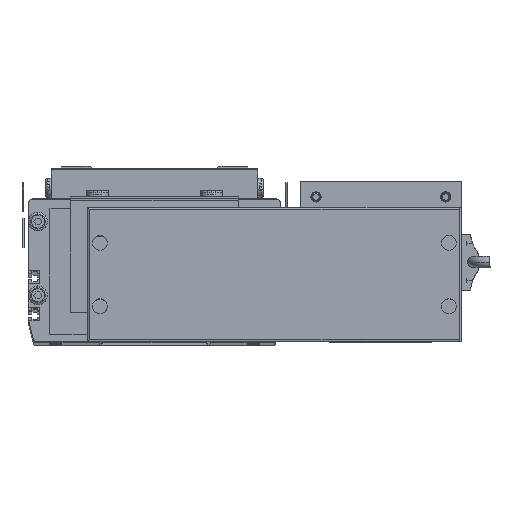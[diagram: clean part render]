
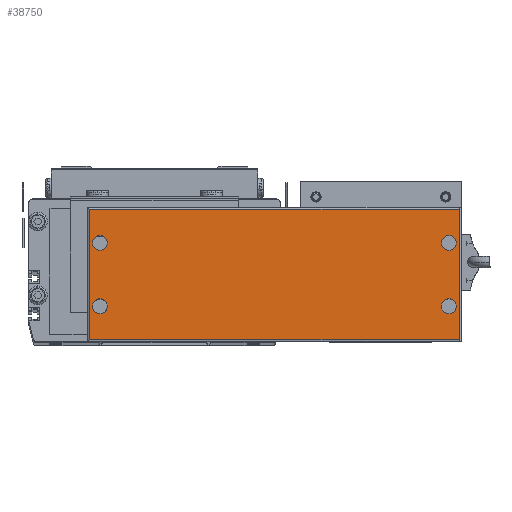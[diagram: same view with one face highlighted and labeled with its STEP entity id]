
A CAD part, top view. The second image highlights one B-rep face of the part: STEP entity #38750.
In plain terms, the highlighted planar face has unit normal (0, 0, 1).
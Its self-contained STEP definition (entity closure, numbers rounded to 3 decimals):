
#10413 = EDGE_CURVE ( 'NONE', #10707, #10705, #72257, .T. ) ;
#10446 = VERTEX_POINT ( 'NONE', #72368 ) ;
#10503 = VERTEX_POINT ( 'NONE', #72694 ) ;
#10506 = VERTEX_POINT ( 'NONE', #72470 ) ;
#10573 = EDGE_CURVE ( 'NONE', #10622, #10506, #72762, .T. ) ;
#10610 = EDGE_CURVE ( 'NONE', #10446, #10503, #73089, .T. ) ;
#10622 = VERTEX_POINT ( 'NONE', #73035 ) ;
#10664 = EDGE_CURVE ( 'NONE', #10687, #10684, #73027, .T. ) ;
#10684 = VERTEX_POINT ( 'NONE', #72866 ) ;
#10687 = VERTEX_POINT ( 'NONE', #72876 ) ;
#10705 = VERTEX_POINT ( 'NONE', #73012 ) ;
#10707 = VERTEX_POINT ( 'NONE', #72968 ) ;
#38286 = ORIENTED_EDGE ( 'NONE', *, *, #38531, .T. ) ;
#38287 = EDGE_CURVE ( 'NONE', #38530, #38509, #88732, .T. ) ;
#38361 = ORIENTED_EDGE ( 'NONE', *, *, #38713, .T. ) ;
#38365 = ORIENTED_EDGE ( 'NONE', *, *, #10573, .F. ) ;
#38472 = ORIENTED_EDGE ( 'NONE', *, *, #10413, .F. ) ;
#38500 = EDGE_LOOP ( 'NONE', ( #38682, #38365 ) ) ;
#38502 = EDGE_CURVE ( 'NONE', #10705, #10707, #89209, .T. ) ;
#38507 = EDGE_CURVE ( 'NONE', #38541, #38779, #89240, .T. ) ;
#38509 = VERTEX_POINT ( 'NONE', #89169 ) ;
#38514 = ORIENTED_EDGE ( 'NONE', *, *, #38507, .T. ) ;
#38528 = ORIENTED_EDGE ( 'NONE', *, *, #38680, .F. ) ;
#38530 = VERTEX_POINT ( 'NONE', #89152 ) ;
#38531 = EDGE_CURVE ( 'NONE', #38779, #38530, #89150, .T. ) ;
#38533 = EDGE_LOOP ( 'NONE', ( #38361, #38514, #38286, #38665 ) ) ;
#38541 = VERTEX_POINT ( 'NONE', #89291 ) ;
#38628 = ORIENTED_EDGE ( 'NONE', *, *, #38629, .F. ) ;
#38629 = EDGE_CURVE ( 'NONE', #10503, #10446, #95733, .T. ) ;
#38665 = ORIENTED_EDGE ( 'NONE', *, *, #38287, .T. ) ;
#38680 = EDGE_CURVE ( 'NONE', #10684, #10687, #89698, .T. ) ;
#38682 = ORIENTED_EDGE ( 'NONE', *, *, #38768, .F. ) ;
#38689 = ORIENTED_EDGE ( 'NONE', *, *, #38502, .F. ) ;
#38691 = ORIENTED_EDGE ( 'NONE', *, *, #10610, .F. ) ;
#38712 = ORIENTED_EDGE ( 'NONE', *, *, #10664, .F. ) ;
#38713 = EDGE_CURVE ( 'NONE', #38509, #38541, #89727, .T. ) ;
#38750 = ADVANCED_FACE ( 'NONE', ( #90131, #90129, #90049, #90124, #90132 ), #90130, .T. ) ;
#38756 = EDGE_LOOP ( 'NONE', ( #38689, #38472 ) ) ;
#38759 = EDGE_LOOP ( 'NONE', ( #38528, #38712 ) ) ;
#38768 = EDGE_CURVE ( 'NONE', #10506, #10622, #90197, .T. ) ;
#38776 = EDGE_LOOP ( 'NONE', ( #38628, #38691 ) ) ;
#38779 = VERTEX_POINT ( 'NONE', #90202 ) ;
#72247 = DIRECTION ( 'NONE',  ( 1., 0., 0. ) ) ;
#72248 = DIRECTION ( 'NONE',  ( 0., 0., 1. ) ) ;
#72257 = CIRCLE ( 'NONE', #72430, 4. ) ;
#72261 = CARTESIAN_POINT ( 'NONE',  ( -29.25, 19., 44. ) ) ;
#72368 = CARTESIAN_POINT ( 'NONE',  ( -33.25, 53., 44. ) ) ;
#72430 = AXIS2_PLACEMENT_3D ( 'NONE', #72261, #72248, #72247 ) ;
#72470 = CARTESIAN_POINT ( 'NONE',  ( 161.75, 19., 44. ) ) ;
#72694 = CARTESIAN_POINT ( 'NONE',  ( -25.25, 53., 44. ) ) ;
#72748 = CARTESIAN_POINT ( 'NONE',  ( -29.25, 53., 44. ) ) ;
#72762 = CIRCLE ( 'NONE', #72788, 4. ) ;
#72771 = AXIS2_PLACEMENT_3D ( 'NONE', #72748, #73042, #72988 ) ;
#72788 = AXIS2_PLACEMENT_3D ( 'NONE', #72822, #72901, #72899 ) ;
#72822 = CARTESIAN_POINT ( 'NONE',  ( 157.75, 19., 44. ) ) ;
#72866 = CARTESIAN_POINT ( 'NONE',  ( 161.75, 53., 44. ) ) ;
#72876 = CARTESIAN_POINT ( 'NONE',  ( 153.75, 53., 44. ) ) ;
#72899 = DIRECTION ( 'NONE',  ( 1., 0., 0. ) ) ;
#72901 = DIRECTION ( 'NONE',  ( 0., 0., 1. ) ) ;
#72906 = CARTESIAN_POINT ( 'NONE',  ( 157.75, 53., 44. ) ) ;
#72941 = AXIS2_PLACEMENT_3D ( 'NONE', #72906, #73022, #73020 ) ;
#72968 = CARTESIAN_POINT ( 'NONE',  ( -33.25, 19., 44. ) ) ;
#72988 = DIRECTION ( 'NONE',  ( 1., 0., 0. ) ) ;
#73012 = CARTESIAN_POINT ( 'NONE',  ( -25.25, 19., 44. ) ) ;
#73020 = DIRECTION ( 'NONE',  ( 1., 0., 0. ) ) ;
#73022 = DIRECTION ( 'NONE',  ( 0., 0., 1. ) ) ;
#73027 = CIRCLE ( 'NONE', #72941, 4. ) ;
#73035 = CARTESIAN_POINT ( 'NONE',  ( 153.75, 19., 44. ) ) ;
#73042 = DIRECTION ( 'NONE',  ( 0., 0., 1. ) ) ;
#73089 = CIRCLE ( 'NONE', #72771, 4. ) ;
#88657 = DIRECTION ( 'NONE',  ( 0., -1., 0. ) ) ;
#88658 = VECTOR ( 'NONE', #88657, 1000. ) ;
#88666 = CARTESIAN_POINT ( 'NONE',  ( -34.75, 0., 44. ) ) ;
#88732 = LINE ( 'NONE', #88666, #88658 ) ;
#89149 = CARTESIAN_POINT ( 'NONE',  ( -35.75, 71., 44. ) ) ;
#89150 = LINE ( 'NONE', #89149, #89294 ) ;
#89152 = CARTESIAN_POINT ( 'NONE',  ( -34.75, 71., 44. ) ) ;
#89153 = DIRECTION ( 'NONE',  ( 0., 1., 0. ) ) ;
#89154 = VECTOR ( 'NONE', #89153, 1000. ) ;
#89155 = CARTESIAN_POINT ( 'NONE',  ( 163.25, 72., 44. ) ) ;
#89169 = CARTESIAN_POINT ( 'NONE',  ( -34.75, 1., 44. ) ) ;
#89173 = DIRECTION ( 'NONE',  ( 1., 0., 0. ) ) ;
#89198 = CARTESIAN_POINT ( 'NONE',  ( -29.25, 19., 44. ) ) ;
#89209 = CIRCLE ( 'NONE', #89219, 4. ) ;
#89219 = AXIS2_PLACEMENT_3D ( 'NONE', #89198, #89235, #89173 ) ;
#89235 = DIRECTION ( 'NONE',  ( 0., 0., 1. ) ) ;
#89240 = LINE ( 'NONE', #89155, #89154 ) ;
#89291 = CARTESIAN_POINT ( 'NONE',  ( 163.25, 1., 44. ) ) ;
#89293 = DIRECTION ( 'NONE',  ( -1., 0., 0. ) ) ;
#89294 = VECTOR ( 'NONE', #89293, 1000. ) ;
#89574 = DIRECTION ( 'NONE',  ( 1., 0., 0. ) ) ;
#89575 = DIRECTION ( 'NONE',  ( 0., 0., 1. ) ) ;
#89668 = AXIS2_PLACEMENT_3D ( 'NONE', #89695, #89575, #89574 ) ;
#89695 = CARTESIAN_POINT ( 'NONE',  ( 157.75, 53., 44. ) ) ;
#89698 = CIRCLE ( 'NONE', #89668, 4. ) ;
#89724 = DIRECTION ( 'NONE',  ( 1., 0., 0. ) ) ;
#89725 = VECTOR ( 'NONE', #89724, 1000. ) ;
#89726 = CARTESIAN_POINT ( 'NONE',  ( 164.25, 1., 44. ) ) ;
#89727 = LINE ( 'NONE', #89726, #89725 ) ;
#90048 = CARTESIAN_POINT ( 'NONE',  ( -35.75, 0., 44. ) ) ;
#90049 = FACE_BOUND ( 'NONE', #38500, .T. ) ;
#90102 = DIRECTION ( 'NONE',  ( 1., 0., 0. ) ) ;
#90124 = FACE_BOUND ( 'NONE', #38759, .T. ) ;
#90129 = FACE_BOUND ( 'NONE', #38756, .T. ) ;
#90130 = PLANE ( 'NONE',  #90151 ) ;
#90131 = FACE_BOUND ( 'NONE', #38776, .T. ) ;
#90132 = FACE_OUTER_BOUND ( 'NONE', #38533, .T. ) ;
#90151 = AXIS2_PLACEMENT_3D ( 'NONE', #90048, #90153, #90102 ) ;
#90153 = DIRECTION ( 'NONE',  ( 0., 0., 1. ) ) ;
#90196 = AXIS2_PLACEMENT_3D ( 'NONE', #90200, #90224, #90223 ) ;
#90197 = CIRCLE ( 'NONE', #90196, 4. ) ;
#90200 = CARTESIAN_POINT ( 'NONE',  ( 157.75, 19., 44. ) ) ;
#90202 = CARTESIAN_POINT ( 'NONE',  ( 163.25, 71., 44. ) ) ;
#90223 = DIRECTION ( 'NONE',  ( 1., 0., 0. ) ) ;
#90224 = DIRECTION ( 'NONE',  ( 0., 0., 1. ) ) ;
#95730 = AXIS2_PLACEMENT_3D ( 'NONE', #95738, #95737, #95736 ) ;
#95733 = CIRCLE ( 'NONE', #95730, 4. ) ;
#95736 = DIRECTION ( 'NONE',  ( 1., 0., 0. ) ) ;
#95737 = DIRECTION ( 'NONE',  ( 0., 0., 1. ) ) ;
#95738 = CARTESIAN_POINT ( 'NONE',  ( -29.25, 53., 44. ) ) ;
